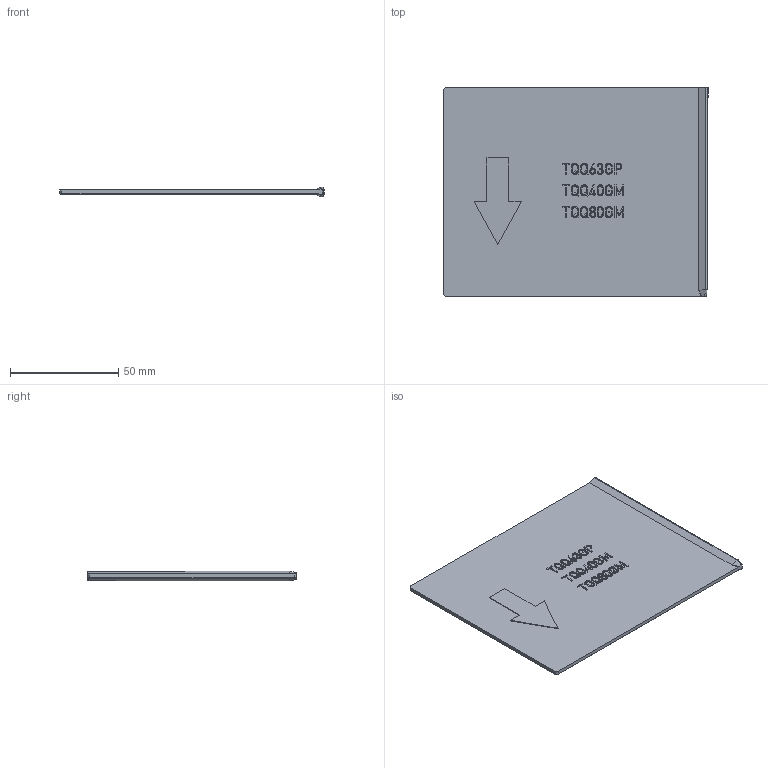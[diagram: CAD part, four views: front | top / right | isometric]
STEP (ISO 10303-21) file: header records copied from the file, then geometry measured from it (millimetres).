
FILE_DESCRIPTION((''),'2;1');
FILE_NAME('U6_INTERPOLE_BARRIER','2018-06-04T',('HHI'),(''),'PRO/ENGINEER BY PARAMETRIC TECHNOLOGY CORPORATION, 2012453','PRO/ENGINEER BY PARAMETRIC TECHNOLOGY CORPORATION, 2012453','');
FILE_SCHEMA(('CONFIG_CONTROL_DESIGN'));
Length unit declared in the file: millimetre
Products named in the file (1): U6_INTERPOLE_BARRIER
Bounding box: 122.4 x 96.5 x 4.63 mm (x, y, z)
Volume: 24392.8 mm3; surface area: 24986.4 mm2
Topology: 1 solids, 1 shells, 537 faces, 1388 edges, 921 vertices
Faces by surface type: extrusion 290, plane 233, cylinder 10, cone 3, bspline 1
Entity records: 19758 total; most frequent: CARTESIAN_POINT 7738, ORIENTED_EDGE 2776, DIRECTION 1593, EDGE_CURVE 1388, VECTOR 1075, VERTEX_POINT 921, B_SPLINE_CURVE_WITH_KNOTS 880, LINE 785
